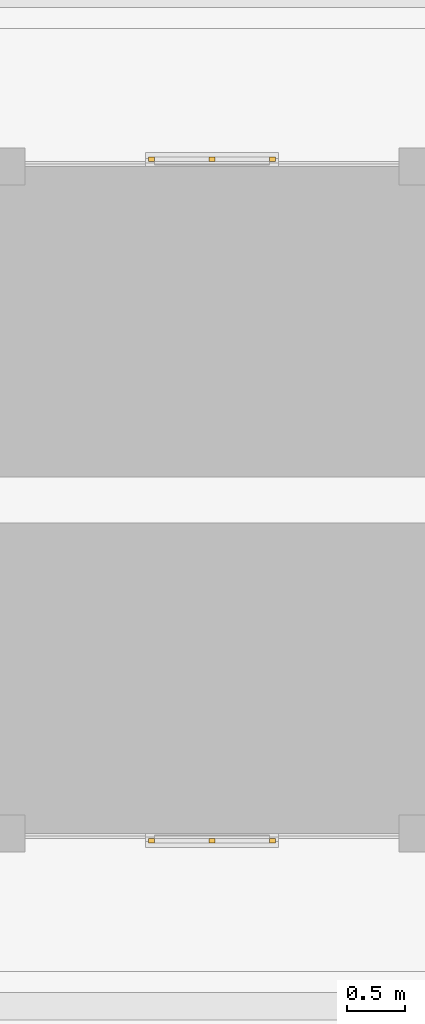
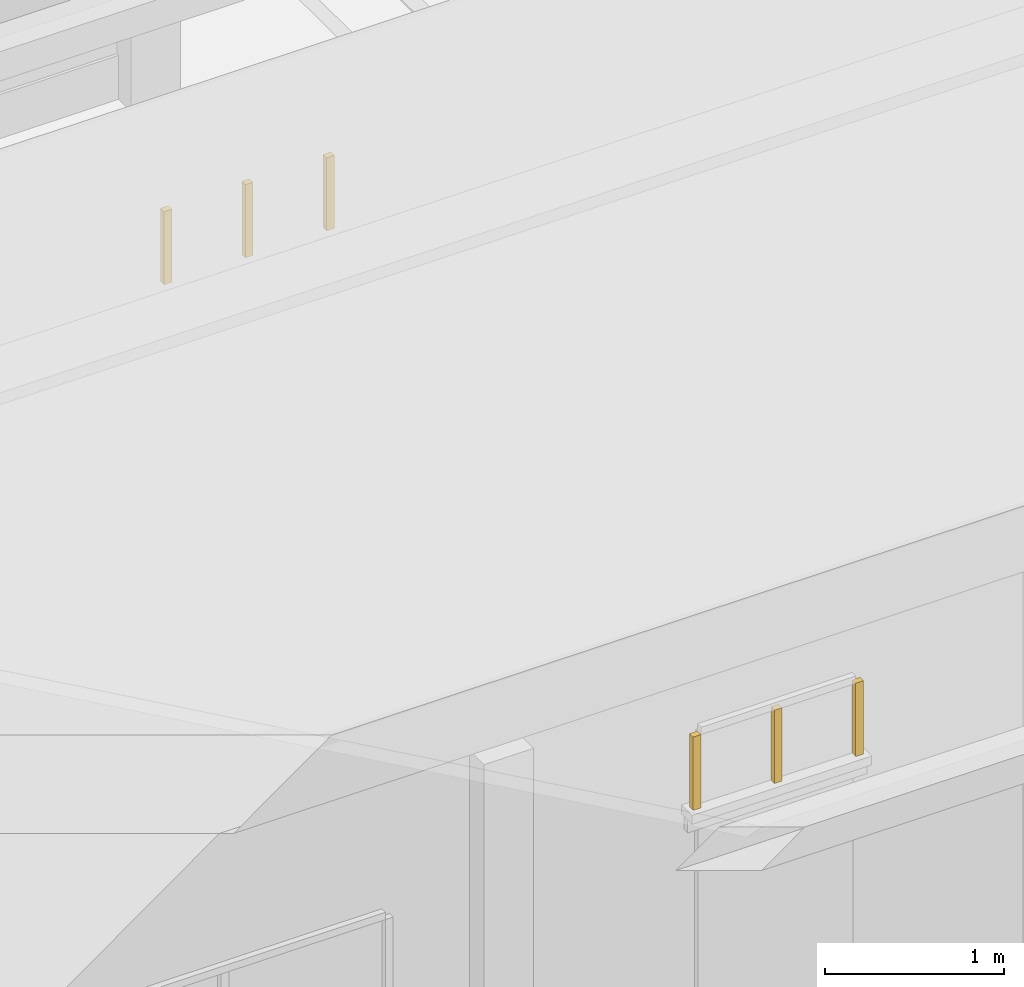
# One storey, part 77 of 177: 6 windows.
"""IFC4 building model written with IfcOpenShell, lengths in metres."""

from ifc_helpers import new_model, si_unit, origin, origin_with_axes, place, context, subcontext, project, spatial, triangles, element, save


model = new_model("IFC4")

# Units and contexts
model_context = context("Model", 3, precision=1e-05, world=origin_with_axes())
body_context = subcontext(model_context, "Body", "Model", "MODEL_VIEW")
ifc_project = project(units=[si_unit("LENGTHUNIT", "METRE"), si_unit("AREAUNIT", "SQUARE_METRE"), si_unit("VOLUMEUNIT", "CUBIC_METRE"), si_unit("PLANEANGLEUNIT", "RADIAN")], contexts=[model_context])

# Site, building, storey
site_placement = place(None, origin_with_axes())
site = spatial("IfcSite", under=ifc_project, at=site_placement, Name="Predio Los Mangos - Morales, San Martín", CompositionType="ELEMENT")
building_placement = place(site_placement, origin())
building = spatial("IfcBuilding", under=site, at=building_placement, Name="Hogar de Refugio Temporal", CompositionType="ELEMENT")
storey_placement = place(building_placement, origin())
storey = spatial("IfcBuildingStorey", under=building, at=storey_placement, Name="NIVEL 1 (NPT +0.00)", CompositionType="ELEMENT", Elevation=0.0)

# Windows
window_1_placement = place(storey_placement, origin())
element("IfcWindow", 1, at=window_1_placement, inside=storey, Name="E-03_vt1_m", ObjectType="Ventana", PredefinedType="WINDOW", context=body_context, shape_type="Tessellation", body=[
    triangles([(50.1125, 32.42, 2.45), (50.1625, 32.42, 2.45), (50.1625, 32.46, 2.45), (50.1125, 32.46, 2.45), (50.1125, 32.42, 2.95), (50.1625, 32.42, 2.95), (50.1625, 32.46, 2.95), (50.1125, 32.46, 2.95)], [[1, 4, 3], [1, 3, 2], [5, 6, 7], [5, 7, 8], [1, 2, 6], [1, 6, 5], [2, 3, 7], [2, 7, 6], [3, 4, 8], [3, 8, 7], [4, 1, 5], [4, 5, 8]]),
])
window_2_placement = place(storey_placement, origin())
element("IfcWindow", 2, at=window_2_placement, inside=storey, Name="E-03_vt1_m", ObjectType="Ventana", PredefinedType="WINDOW", context=body_context, shape_type="Tessellation", body=[
    triangles([(51.1625, 32.42, 2.45), (51.2125, 32.42, 2.45), (51.2125, 32.46, 2.45), (51.1625, 32.46, 2.45), (51.1625, 32.42, 2.95), (51.2125, 32.42, 2.95), (51.2125, 32.46, 2.95), (51.1625, 32.46, 2.95)], [[1, 4, 3], [1, 3, 2], [5, 6, 7], [5, 7, 8], [1, 2, 6], [1, 6, 5], [2, 3, 7], [2, 7, 6], [3, 4, 8], [3, 8, 7], [4, 1, 5], [4, 5, 8]]),
])
window_3_placement = place(storey_placement, origin())
element("IfcWindow", 3, at=window_3_placement, inside=storey, Name="E-03_vt1_m", ObjectType="Ventana", PredefinedType="WINDOW", context=body_context, shape_type="Tessellation", body=[
    triangles([(50.6375, 32.42, 2.45), (50.6875, 32.42, 2.45), (50.6875, 32.46, 2.45), (50.6375, 32.46, 2.45), (50.6375, 32.42, 2.95), (50.6875, 32.42, 2.95), (50.6875, 32.46, 2.95), (50.6375, 32.46, 2.95)], [[1, 4, 3], [1, 3, 2], [5, 6, 7], [5, 7, 8], [1, 2, 6], [1, 6, 5], [2, 3, 7], [2, 7, 6], [3, 4, 8], [3, 8, 7], [4, 1, 5], [4, 5, 8]]),
])
window_4_placement = place(storey_placement, origin())
element("IfcWindow", 4, at=window_4_placement, inside=storey, Name="E-03_vt1_m", ObjectType="Ventana", PredefinedType="WINDOW", context=body_context, shape_type="Tessellation", body=[
    triangles([(50.1125, 38.34, 2.45), (50.1625, 38.34, 2.45), (50.1625, 38.38, 2.45), (50.1125, 38.38, 2.45), (50.1125, 38.34, 2.95), (50.1625, 38.34, 2.95), (50.1625, 38.38, 2.95), (50.1125, 38.38, 2.95)], [[1, 4, 3], [1, 3, 2], [5, 6, 7], [5, 7, 8], [1, 2, 6], [1, 6, 5], [2, 3, 7], [2, 7, 6], [3, 4, 8], [3, 8, 7], [4, 1, 5], [4, 5, 8]]),
])
window_5_placement = place(storey_placement, origin())
element("IfcWindow", 5, at=window_5_placement, inside=storey, Name="E-03_vt1_m", ObjectType="Ventana", PredefinedType="WINDOW", context=body_context, shape_type="Tessellation", body=[
    triangles([(51.1625, 38.34, 2.45), (51.2125, 38.34, 2.45), (51.2125, 38.38, 2.45), (51.1625, 38.38, 2.45), (51.1625, 38.34, 2.95), (51.2125, 38.34, 2.95), (51.2125, 38.38, 2.95), (51.1625, 38.38, 2.95)], [[1, 4, 3], [1, 3, 2], [5, 6, 7], [5, 7, 8], [1, 2, 6], [1, 6, 5], [2, 3, 7], [2, 7, 6], [3, 4, 8], [3, 8, 7], [4, 1, 5], [4, 5, 8]]),
])
window_6_placement = place(storey_placement, origin())
element("IfcWindow", 6, at=window_6_placement, inside=storey, Name="E-03_vt1_m", ObjectType="Ventana", PredefinedType="WINDOW", context=body_context, shape_type="Tessellation", body=[
    triangles([(50.6375, 38.34, 2.45), (50.6875, 38.34, 2.45), (50.6875, 38.38, 2.45), (50.6375, 38.38, 2.45), (50.6375, 38.34, 2.95), (50.6875, 38.34, 2.95), (50.6875, 38.38, 2.95), (50.6375, 38.38, 2.95)], [[1, 4, 3], [1, 3, 2], [5, 6, 7], [5, 7, 8], [1, 2, 6], [1, 6, 5], [2, 3, 7], [2, 7, 6], [3, 4, 8], [3, 8, 7], [4, 1, 5], [4, 5, 8]]),
])

save(model, "model.ifc")
